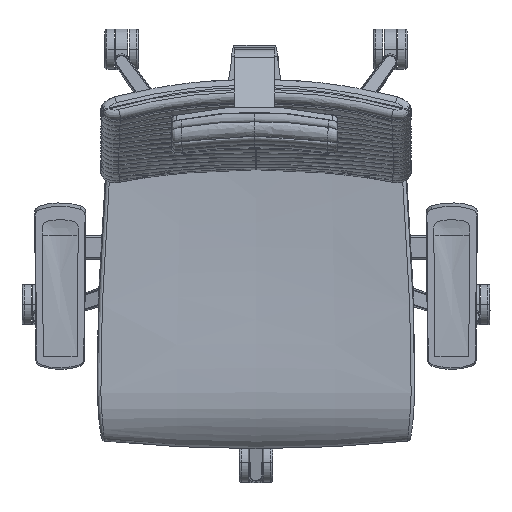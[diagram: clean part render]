
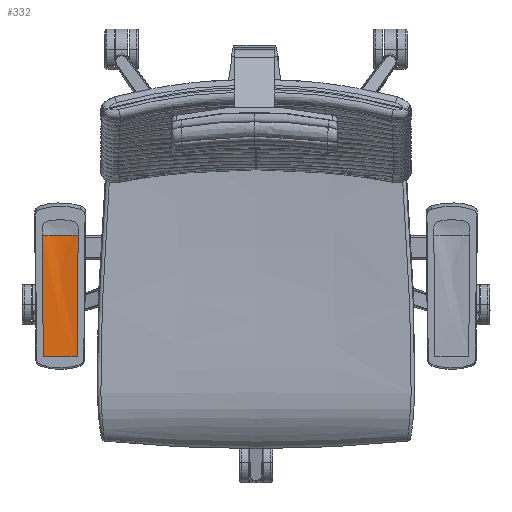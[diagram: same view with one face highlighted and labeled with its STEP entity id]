
A CAD part, top view. The second image highlights one B-rep face of the part: STEP entity #332.
In plain terms, the highlighted free-form (B-spline) face has degree [2, 3] with [3, 4] control points.
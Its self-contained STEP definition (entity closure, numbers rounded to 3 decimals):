
#332=ADVANCED_FACE('',(#1124),#10732,.T.);
#1124=FACE_OUTER_BOUND('',#1916,.T.);
#1916=EDGE_LOOP('',(#3478,#3479,#3480,#3481,#3482));
#3478=ORIENTED_EDGE('',*,*,#6428,.F.);
#3479=ORIENTED_EDGE('',*,*,#6412,.F.);
#3480=ORIENTED_EDGE('',*,*,#6410,.F.);
#3481=ORIENTED_EDGE('',*,*,#6409,.F.);
#3482=ORIENTED_EDGE('',*,*,#6411,.F.);
#6409=EDGE_CURVE('',#9903,#9904,#7894,.T.);
#6410=EDGE_CURVE('',#9904,#9902,#7895,.T.);
#6411=EDGE_CURVE('',#9905,#9903,#7896,.T.);
#6412=EDGE_CURVE('',#9902,#9906,#7897,.T.);
#6428=EDGE_CURVE('',#9906,#9905,#8577,.T.);
#7894=(
BOUNDED_CURVE()
B_SPLINE_CURVE(2,(#24403,#24404,#24405),.UNSPECIFIED.,.F.,.F.)
B_SPLINE_CURVE_WITH_KNOTS((3,3),(0.,26.864),.UNSPECIFIED.)
CURVE()
GEOMETRIC_REPRESENTATION_ITEM()
RATIONAL_B_SPLINE_CURVE((1.,0.994,1.))
REPRESENTATION_ITEM('')
);
#7895=(
BOUNDED_CURVE()
B_SPLINE_CURVE(2,(#24406,#24407,#24408),.UNSPECIFIED.,.F.,.F.)
B_SPLINE_CURVE_WITH_KNOTS((3,3),(-26.864,0.),.UNSPECIFIED.)
CURVE()
GEOMETRIC_REPRESENTATION_ITEM()
RATIONAL_B_SPLINE_CURVE((1.,0.994,1.))
REPRESENTATION_ITEM('')
);
#7896=(
BOUNDED_CURVE()
B_SPLINE_CURVE(3,(#24409,#24410,#24411,#24412),.UNSPECIFIED.,.F.,.F.)
B_SPLINE_CURVE_WITH_KNOTS((4,4),(0.,180.167),.UNSPECIFIED.)
CURVE()
GEOMETRIC_REPRESENTATION_ITEM()
RATIONAL_B_SPLINE_CURVE((1.,1.,1.,1.))
REPRESENTATION_ITEM('')
);
#7897=(
BOUNDED_CURVE()
B_SPLINE_CURVE(3,(#24413,#24414,#24415,#24416),.UNSPECIFIED.,.F.,.F.)
B_SPLINE_CURVE_WITH_KNOTS((4,4),(-180.167,0.),.UNSPECIFIED.)
CURVE()
GEOMETRIC_REPRESENTATION_ITEM()
RATIONAL_B_SPLINE_CURVE((1.,1.,1.,1.))
REPRESENTATION_ITEM('')
);
#8577=B_SPLINE_CURVE_WITH_KNOTS('',1,(#24478,#24479),.UNSPECIFIED.,.F.,
 .F.,(2,2),(0.,50.276),.UNSPECIFIED.);
#9902=VERTEX_POINT('',#24375);
#9903=VERTEX_POINT('',#24376);
#9904=VERTEX_POINT('',#24377);
#9905=VERTEX_POINT('',#24378);
#9906=VERTEX_POINT('',#24379);
#10732=(
BOUNDED_SURFACE()
B_SPLINE_SURFACE(2,3,((#24295,#24296,#24297,#24298),(#24299,#24300,#24301,
#24302),(#24303,#24304,#24305,#24306)),.UNSPECIFIED.,.F.,.F.,.F.)
B_SPLINE_SURFACE_WITH_KNOTS((3,3),(4,4),(-53.728,0.),(0.,180.167),
 .UNSPECIFIED.)
GEOMETRIC_REPRESENTATION_ITEM()
RATIONAL_B_SPLINE_SURFACE(((1.,1.,1.,1.),(0.975,0.975,
0.975,0.975),(1.,1.,1.,1.)))
REPRESENTATION_ITEM('')
SURFACE()
);
#24295=CARTESIAN_POINT('',(-315.828,-164.805,673.407));
#24296=CARTESIAN_POINT('',(-316.329,-104.752,673.259));
#24297=CARTESIAN_POINT('',(-316.829,-44.699,673.11));
#24298=CARTESIAN_POINT('',(-317.33,15.355,672.962));
#24299=CARTESIAN_POINT('',(-290.691,-164.805,673.407));
#24300=CARTESIAN_POINT('',(-290.691,-104.752,673.31));
#24301=CARTESIAN_POINT('',(-290.691,-44.713,667.198));
#24302=CARTESIAN_POINT('',(-290.691,15.34,666.885));
#24303=CARTESIAN_POINT('',(-265.553,-164.805,673.407));
#24304=CARTESIAN_POINT('',(-265.052,-104.752,673.259));
#24305=CARTESIAN_POINT('',(-264.552,-44.699,673.11));
#24306=CARTESIAN_POINT('',(-264.051,15.355,672.962));
#24375=CARTESIAN_POINT('',(-264.051,15.355,672.962));
#24376=CARTESIAN_POINT('',(-317.33,15.355,672.962));
#24377=CARTESIAN_POINT('',(-290.691,15.347,669.962));
#24378=CARTESIAN_POINT('',(-315.828,-164.805,673.407));
#24379=CARTESIAN_POINT('',(-265.553,-164.805,673.407));
#24403=CARTESIAN_POINT('',(-317.33,15.355,672.962));
#24404=CARTESIAN_POINT('',(-304.179,15.347,669.962));
#24405=CARTESIAN_POINT('',(-290.691,15.347,669.962));
#24406=CARTESIAN_POINT('',(-290.691,15.347,669.962));
#24407=CARTESIAN_POINT('',(-277.202,15.347,669.962));
#24408=CARTESIAN_POINT('',(-264.051,15.355,672.962));
#24409=CARTESIAN_POINT('',(-315.828,-164.805,673.407));
#24410=CARTESIAN_POINT('',(-316.329,-104.752,673.259));
#24411=CARTESIAN_POINT('',(-316.829,-44.699,673.11));
#24412=CARTESIAN_POINT('',(-317.33,15.355,672.962));
#24413=CARTESIAN_POINT('',(-264.051,15.355,672.962));
#24414=CARTESIAN_POINT('',(-264.552,-44.699,673.11));
#24415=CARTESIAN_POINT('',(-265.052,-104.752,673.259));
#24416=CARTESIAN_POINT('',(-265.553,-164.805,673.407));
#24478=CARTESIAN_POINT('',(-265.553,-164.805,673.407));
#24479=CARTESIAN_POINT('',(-315.828,-164.805,673.407));
